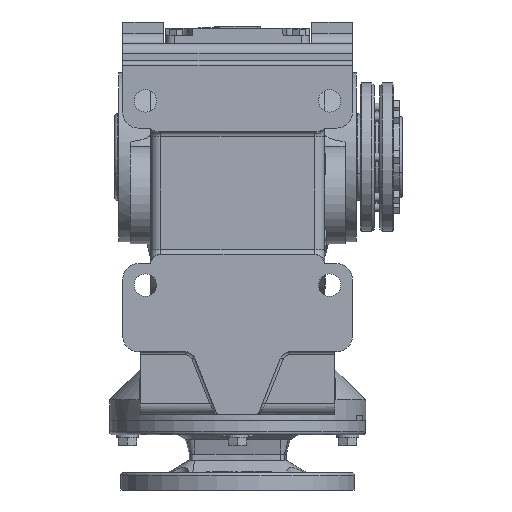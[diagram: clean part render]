
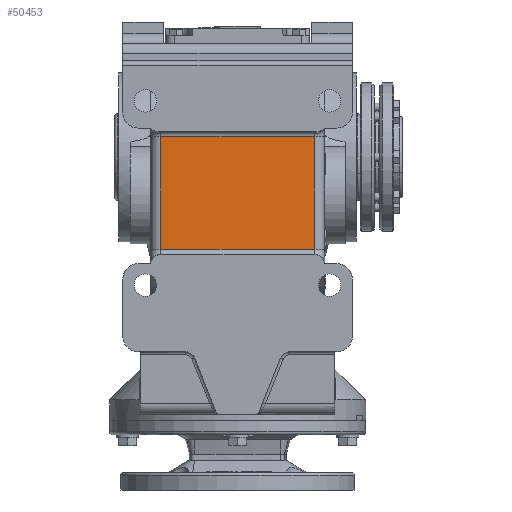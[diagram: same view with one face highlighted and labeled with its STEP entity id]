
A CAD part, front view. The second image highlights one B-rep face of the part: STEP entity #50453.
In plain terms, the highlighted planar face has unit normal (0, -1, 0).
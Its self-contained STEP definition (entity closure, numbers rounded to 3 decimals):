
#5516 = FACE_OUTER_BOUND ( 'NONE', #40749, .T. ) ;
#10675 = CARTESIAN_POINT ( 'NONE',  ( 75., -206., 20. ) ) ;
#12139 = VERTEX_POINT ( 'NONE', #10675 ) ;
#16000 = LINE ( 'NONE', #34269, #16007 ) ;
#16002 = LINE ( 'NONE', #34277, #16005 ) ;
#16005 = VECTOR ( 'NONE', #34281, 1000. ) ;
#16006 = LINE ( 'NONE', #34286, #16009 ) ;
#16007 = VECTOR ( 'NONE', #34283, 1000. ) ;
#16009 = VECTOR ( 'NONE', #34289, 1000. ) ;
#16015 = LINE ( 'NONE', #34302, #16016 ) ;
#16016 = VECTOR ( 'NONE', #34293, 1000. ) ;
#17999 = AXIS2_PLACEMENT_3D ( 'NONE', #21422, #21427, #21428 ) ;
#21422 = CARTESIAN_POINT ( 'NONE',  ( -112., -206., 20. ) ) ;
#21424 = PLANE ( 'NONE',  #17999 ) ;
#21427 = DIRECTION ( 'NONE',  ( 0., -1., 0. ) ) ;
#21428 = DIRECTION ( 'NONE',  ( 0., 0., -1. ) ) ;
#28219 = VERTEX_POINT ( 'NONE', #49257 ) ;
#34269 = CARTESIAN_POINT ( 'NONE',  ( 75., -206., 20. ) ) ;
#34277 = CARTESIAN_POINT ( 'NONE',  ( -75., -206., -90. ) ) ;
#34281 = DIRECTION ( 'NONE',  ( 0., 0., -1. ) ) ;
#34283 = DIRECTION ( 'NONE',  ( 0., 0., 1. ) ) ;
#34286 = CARTESIAN_POINT ( 'NONE',  ( -112., -206., -90. ) ) ;
#34289 = DIRECTION ( 'NONE',  ( 1., 0., 0. ) ) ;
#34293 = DIRECTION ( 'NONE',  ( 1., 0., 0. ) ) ;
#34302 = CARTESIAN_POINT ( 'NONE',  ( -112., -206., 20. ) ) ;
#35548 = EDGE_CURVE ( 'NONE', #51583, #51794, #16002, .T. ) ;
#35549 = EDGE_CURVE ( 'NONE', #28219, #12139, #16000, .T. ) ;
#35550 = EDGE_CURVE ( 'NONE', #51794, #28219, #16006, .T. ) ;
#35556 = EDGE_CURVE ( 'NONE', #51583, #12139, #16015, .T. ) ;
#36460 = ORIENTED_EDGE ( 'NONE', *, *, #35550, .T. ) ;
#36461 = ORIENTED_EDGE ( 'NONE', *, *, #35549, .T. ) ;
#36462 = ORIENTED_EDGE ( 'NONE', *, *, #35556, .F. ) ;
#36463 = ORIENTED_EDGE ( 'NONE', *, *, #35548, .T. ) ;
#40749 = EDGE_LOOP ( 'NONE', ( #36460, #36461, #36462, #36463 ) ) ;
#43342 = CARTESIAN_POINT ( 'NONE',  ( -75., -206., 20. ) ) ;
#43458 = CARTESIAN_POINT ( 'NONE',  ( -75., -206., -90. ) ) ;
#49257 = CARTESIAN_POINT ( 'NONE',  ( 75., -206., -90. ) ) ;
#50453 = ADVANCED_FACE ( 'NONE', ( #5516 ), #21424, .T. ) ;
#51583 = VERTEX_POINT ( 'NONE', #43342 ) ;
#51794 = VERTEX_POINT ( 'NONE', #43458 ) ;
